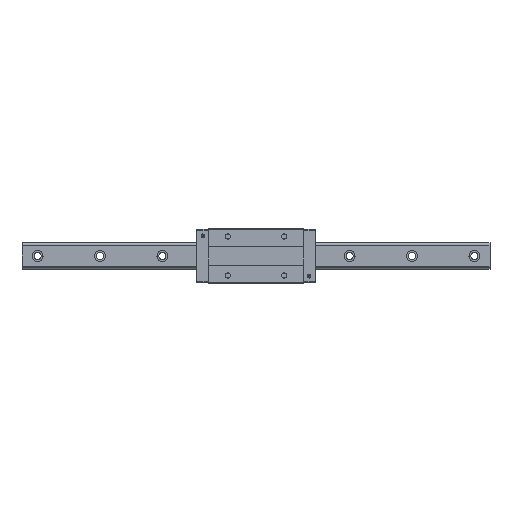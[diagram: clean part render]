
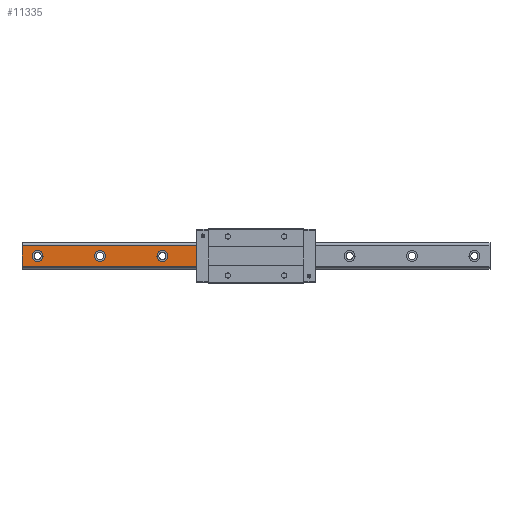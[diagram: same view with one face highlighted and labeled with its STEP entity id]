
A CAD part, top view. The second image highlights one B-rep face of the part: STEP entity #11335.
In plain terms, the highlighted planar face has unit normal (0, 0, 1).
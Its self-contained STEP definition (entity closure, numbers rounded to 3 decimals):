
#121 = AXIS2_PLACEMENT_3D ( 'NONE', #5461, #15595, #931 ) ;
#360 = AXIS2_PLACEMENT_3D ( 'NONE', #11166, #5206, #768 ) ;
#462 = VERTEX_POINT ( 'NONE', #5967 ) ;
#768 = DIRECTION ( 'NONE',  ( -1., 0., 0. ) ) ;
#931 = DIRECTION ( 'NONE',  ( -1., 0., 0. ) ) ;
#1044 = FACE_BOUND ( 'NONE', #2329, .T. ) ;
#1131 = DIRECTION ( 'NONE',  ( 0., 0., -1. ) ) ;
#1274 = VERTEX_POINT ( 'NONE', #13575 ) ;
#1303 = EDGE_LOOP ( 'NONE', ( #11933, #17882 ) ) ;
#1327 = CARTESIAN_POINT ( 'NONE',  ( 300., -13.408, 26. ) ) ;
#1534 = FACE_BOUND ( 'NONE', #1303, .T. ) ;
#1678 = EDGE_CURVE ( 'NONE', #4832, #17700, #7694, .T. ) ;
#1840 = ORIENTED_EDGE ( 'NONE', *, *, #4350, .T. ) ;
#1913 = EDGE_CURVE ( 'NONE', #1274, #15804, #16148, .T. ) ;
#2134 = ORIENTED_EDGE ( 'NONE', *, *, #1678, .T. ) ;
#2222 = DIRECTION ( 'NONE',  ( 0., 0., -1. ) ) ;
#2329 = EDGE_LOOP ( 'NONE', ( #1840, #6998 ) ) ;
#2397 = EDGE_CURVE ( 'NONE', #15804, #1274, #5154, .T. ) ;
#2424 = AXIS2_PLACEMENT_3D ( 'NONE', #8803, #18654, #7496 ) ;
#2698 = CARTESIAN_POINT ( 'NONE',  ( 300., 13.408, 26. ) ) ;
#2729 = LINE ( 'NONE', #1327, #15769 ) ;
#2835 = CARTESIAN_POINT ( 'NONE',  ( -273., 0., 26. ) ) ;
#2893 = DIRECTION ( 'NONE',  ( -1., 0., 0. ) ) ;
#3464 = DIRECTION ( 'NONE',  ( -1., 0., 0. ) ) ;
#3700 = CARTESIAN_POINT ( 'NONE',  ( -75.7, -13.408, 26. ) ) ;
#4045 = CARTESIAN_POINT ( 'NONE',  ( -300., -13.408, 26. ) ) ;
#4111 = EDGE_CURVE ( 'NONE', #16975, #10197, #9901, .T. ) ;
#4255 = ORIENTED_EDGE ( 'NONE', *, *, #17179, .T. ) ;
#4350 = EDGE_CURVE ( 'NONE', #10947, #462, #9105, .T. ) ;
#4368 = CARTESIAN_POINT ( 'NONE',  ( -75.7, -13.408, 26. ) ) ;
#4453 = LINE ( 'NONE', #4368, #13743 ) ;
#4605 = DIRECTION ( 'NONE',  ( 1., 0., 0. ) ) ;
#4690 = EDGE_CURVE ( 'NONE', #17700, #4832, #8512, .T. ) ;
#4832 = VERTEX_POINT ( 'NONE', #13623 ) ;
#5082 = LINE ( 'NONE', #10857, #6709 ) ;
#5133 = ORIENTED_EDGE ( 'NONE', *, *, #4111, .T. ) ;
#5154 = CIRCLE ( 'NONE', #2424, 7. ) ;
#5206 = DIRECTION ( 'NONE',  ( 0., 0., -1. ) ) ;
#5305 = DIRECTION ( 'NONE',  ( 0., -1., 0. ) ) ;
#5461 = CARTESIAN_POINT ( 'NONE',  ( -120., 0., 26. ) ) ;
#5967 = CARTESIAN_POINT ( 'NONE',  ( -127., 0., 26. ) ) ;
#6709 = VECTOR ( 'NONE', #13802, 1000. ) ;
#6998 = ORIENTED_EDGE ( 'NONE', *, *, #16117, .T. ) ;
#7396 = AXIS2_PLACEMENT_3D ( 'NONE', #18066, #13719, #17865 ) ;
#7496 = DIRECTION ( 'NONE',  ( -1., 0., 0. ) ) ;
#7694 = CIRCLE ( 'NONE', #7396, 7. ) ;
#8140 = FACE_OUTER_BOUND ( 'NONE', #16553, .T. ) ;
#8280 = CIRCLE ( 'NONE', #121, 7. ) ;
#8325 = PLANE ( 'NONE',  #17588 ) ;
#8512 = CIRCLE ( 'NONE', #360, 7. ) ;
#8798 = AXIS2_PLACEMENT_3D ( 'NONE', #9603, #12275, #10756 ) ;
#8803 = CARTESIAN_POINT ( 'NONE',  ( -200., 0., 26. ) ) ;
#9105 = CIRCLE ( 'NONE', #8798, 7. ) ;
#9236 = ORIENTED_EDGE ( 'NONE', *, *, #10264, .F. ) ;
#9603 = CARTESIAN_POINT ( 'NONE',  ( -120., 0., 26. ) ) ;
#9648 = CARTESIAN_POINT ( 'NONE',  ( 300., 0., 26. ) ) ;
#9901 = LINE ( 'NONE', #2698, #16949 ) ;
#10039 = CARTESIAN_POINT ( 'NONE',  ( -300., 13.408, 26. ) ) ;
#10066 = EDGE_LOOP ( 'NONE', ( #12699, #2134 ) ) ;
#10134 = DIRECTION ( 'NONE',  ( 0., -1., 0. ) ) ;
#10197 = VERTEX_POINT ( 'NONE', #10039 ) ;
#10264 = EDGE_CURVE ( 'NONE', #16975, #17649, #4453, .T. ) ;
#10383 = CARTESIAN_POINT ( 'NONE',  ( -75.7, 13.408, 26. ) ) ;
#10756 = DIRECTION ( 'NONE',  ( -1., 0., 0. ) ) ;
#10857 = CARTESIAN_POINT ( 'NONE',  ( -300., 0., 26. ) ) ;
#10947 = VERTEX_POINT ( 'NONE', #15378 ) ;
#11166 = CARTESIAN_POINT ( 'NONE',  ( -280., 0., 26. ) ) ;
#11335 = ADVANCED_FACE ( 'NONE', ( #14513, #1534, #1044, #8140 ), #8325, .F. ) ;
#11933 = ORIENTED_EDGE ( 'NONE', *, *, #2397, .T. ) ;
#11980 = ORIENTED_EDGE ( 'NONE', *, *, #16971, .T. ) ;
#12275 = DIRECTION ( 'NONE',  ( 0., 0., -1. ) ) ;
#12277 = CARTESIAN_POINT ( 'NONE',  ( -200., 0., 26. ) ) ;
#12699 = ORIENTED_EDGE ( 'NONE', *, *, #4690, .T. ) ;
#12975 = CARTESIAN_POINT ( 'NONE',  ( -193., 0., 26. ) ) ;
#13575 = CARTESIAN_POINT ( 'NONE',  ( -207., 0., 26. ) ) ;
#13623 = CARTESIAN_POINT ( 'NONE',  ( -287., 0., 26. ) ) ;
#13719 = DIRECTION ( 'NONE',  ( 0., 0., -1. ) ) ;
#13743 = VECTOR ( 'NONE', #10134, 1000. ) ;
#13802 = DIRECTION ( 'NONE',  ( 0., -1., 0. ) ) ;
#14513 = FACE_BOUND ( 'NONE', #10066, .T. ) ;
#15378 = CARTESIAN_POINT ( 'NONE',  ( -113., 0., 26. ) ) ;
#15595 = DIRECTION ( 'NONE',  ( 0., 0., -1. ) ) ;
#15769 = VECTOR ( 'NONE', #4605, 1000. ) ;
#15804 = VERTEX_POINT ( 'NONE', #12975 ) ;
#16117 = EDGE_CURVE ( 'NONE', #462, #10947, #8280, .T. ) ;
#16148 = CIRCLE ( 'NONE', #17350, 7. ) ;
#16553 = EDGE_LOOP ( 'NONE', ( #11980, #9236, #5133, #4255 ) ) ;
#16949 = VECTOR ( 'NONE', #2893, 1000. ) ;
#16971 = EDGE_CURVE ( 'NONE', #18265, #17649, #2729, .T. ) ;
#16975 = VERTEX_POINT ( 'NONE', #10383 ) ;
#17179 = EDGE_CURVE ( 'NONE', #10197, #18265, #5082, .T. ) ;
#17350 = AXIS2_PLACEMENT_3D ( 'NONE', #12277, #2222, #3464 ) ;
#17588 = AXIS2_PLACEMENT_3D ( 'NONE', #9648, #1131, #5305 ) ;
#17649 = VERTEX_POINT ( 'NONE', #3700 ) ;
#17700 = VERTEX_POINT ( 'NONE', #2835 ) ;
#17865 = DIRECTION ( 'NONE',  ( -1., 0., 0. ) ) ;
#17882 = ORIENTED_EDGE ( 'NONE', *, *, #1913, .T. ) ;
#18066 = CARTESIAN_POINT ( 'NONE',  ( -280., 0., 26. ) ) ;
#18265 = VERTEX_POINT ( 'NONE', #4045 ) ;
#18654 = DIRECTION ( 'NONE',  ( 0., 0., -1. ) ) ;
